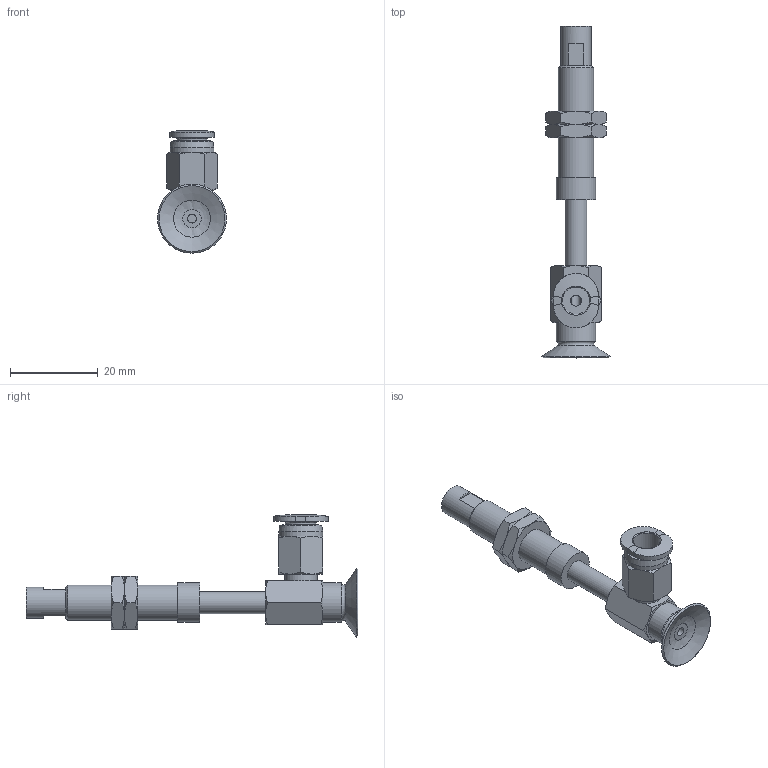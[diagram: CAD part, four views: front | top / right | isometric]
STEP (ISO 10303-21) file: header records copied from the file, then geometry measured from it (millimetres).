
FILE_DESCRIPTION(('STEP AP203'),'1');
FILE_NAME('-O.stp','2025-04-09T07:08:45',(' '),(' '),'Spatial InterOp 3D',' ',' ');
FILE_SCHEMA(('CONFIG_CONTROL_DESIGN'));
Length unit declared in the file: millimetre
Products named in the file (7): BNABPFYS-15A-15-※-O; CONNECTOR-15A-15; Nut-15A-15-s; NAPFTS-15A-15-FBODY; NAPFTS-15A-15-MBODY; BPFG-15A-※; PC-C_06-M5
Assembly tree (7 placements, depth 2):
  BNABPFYS-15A-15-※-O
    CONNECTOR-15A-15
    Nut-15A-15-s  x2
    NAPFTS-15A-15-FBODY
    NAPFTS-15A-15-MBODY
    BPFG-15A-※
    PC-C_06-M5
Bounding box: 15.7 x 75.5 x 27.83 mm (x, y, z)
Volume: 4049.9 mm3; surface area: 6083.6 mm2
Topology: 6 solids, 9 shells, 180 faces, 372 edges, 224 vertices
Faces by surface type: plane 68, cone 67, cylinder 26, torus 11, bspline 5, revolution 3
Full cylindrical faces by diameter (mm): 2 x2, 4 x4, 4.134 x2, 5 x4, 6 x2, 7 x2, 7.188 x2, 7.4 x1, 8 x1, 8.2 x1, 9 x2, 10 x1
Entity records: 4643 total; most frequent: CARTESIAN_POINT 1339, DIRECTION 615, ORIENTED_EDGE 522, AXIS2_PLACEMENT_3D 277, EDGE_CURVE 263, EDGE_LOOP 236, VERTEX_POINT 187, FACE_OUTER_BOUND 132
